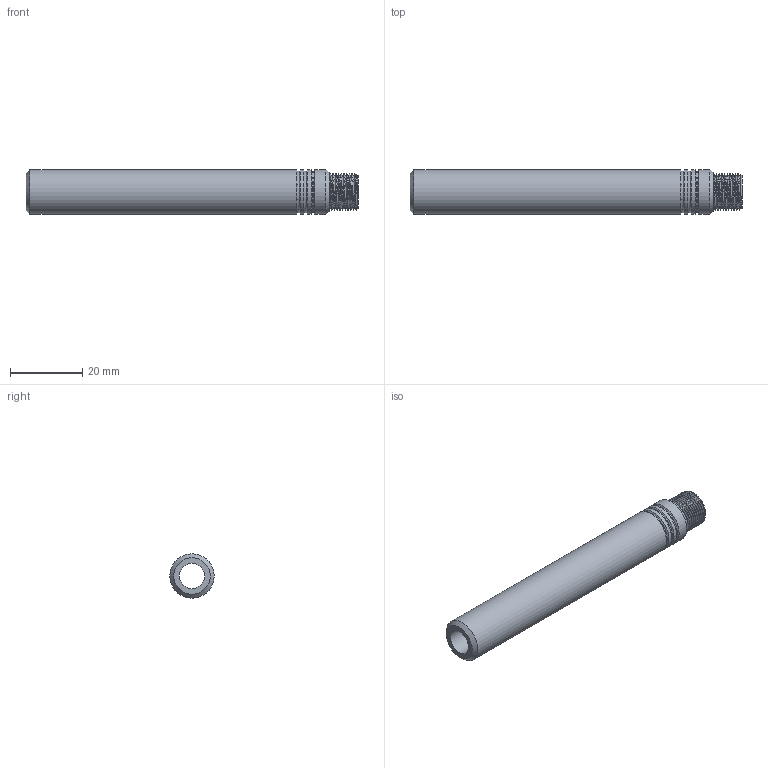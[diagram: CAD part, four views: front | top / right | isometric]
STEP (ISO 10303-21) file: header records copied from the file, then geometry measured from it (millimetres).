
FILE_DESCRIPTION(('Open CASCADE Model'),'2;1');
FILE_NAME('Open CASCADE Shape Model','2026-11-25T12:52:12',('Author'),( 'Open CASCADE'),'Open CASCADE STEP processor 8.0','Open CASCADE 8.0' ,'Unknown');
FILE_SCHEMA(('AP242_MANAGED_MODEL_BASED_3D_ENGINEERING_MIM_LF {1 0 10303 442 1 1 4 }' ));
Length unit declared in the file: millimetre
Products named in the file (1): Barrel
Bounding box: 92 x 12.3 x 12.3 mm (x, y, z)
Volume: 6946.3 mm3; surface area: 5804.1 mm2
Topology: 1 solids, 1 shells, 34 faces, 79 edges, 48 vertices
Faces by surface type: cylinder 19, cone 9, plane 3, bspline 3
Full cylindrical faces by diameter (mm): 7 x1, 10 x9, 11.5 x3, 12.3 x4
Entity records: 7128 total; most frequent: CARTESIAN_POINT 5636, DIRECTION 232, ORIENTED_EDGE 158, PCURVE 158, DEFINITIONAL_REPRESENTATION 158, LINE 121, VECTOR 121, B_SPLINE_CURVE_WITH_KNOTS 89
